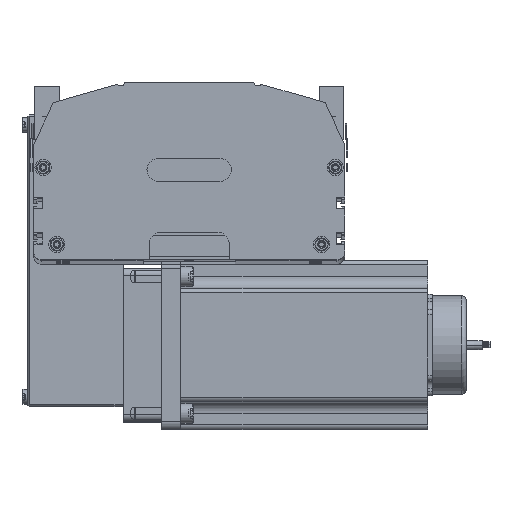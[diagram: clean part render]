
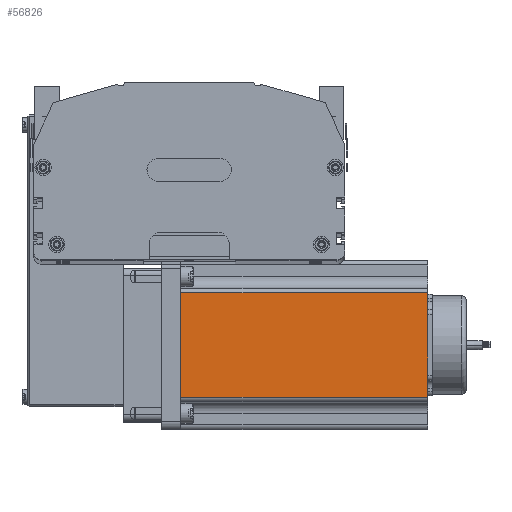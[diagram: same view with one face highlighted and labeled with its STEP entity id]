
A CAD part, top view. The second image highlights one B-rep face of the part: STEP entity #56826.
In plain terms, the highlighted planar face has unit normal (0, 0, 1) as drawn and (0, -1, 0) by its records, which use the part's own axes.
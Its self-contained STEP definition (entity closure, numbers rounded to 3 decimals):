
#10509 = DIRECTION ( 'NONE',  ( 1., 0., 0. ) ) ;
#10510 = VECTOR ( 'NONE', #10509, 1000. ) ;
#10511 = CARTESIAN_POINT ( 'NONE',  ( 0., 0., 0. ) ) ;
#10512 = LINE ( 'NONE', #10511, #10510 ) ;
#10514 = DIRECTION ( 'NONE',  ( 0., 0., 1. ) ) ;
#10515 = VECTOR ( 'NONE', #10514, 1000. ) ;
#10516 = CARTESIAN_POINT ( 'NONE',  ( 88.952, 0., 160.5 ) ) ;
#10517 = LINE ( 'NONE', #10516, #10515 ) ;
#10518 = CARTESIAN_POINT ( 'NONE',  ( 88.952, 0., 0. ) ) ;
#10519 = DIRECTION ( 'NONE',  ( 1., 0., 0. ) ) ;
#10520 = VECTOR ( 'NONE', #10519, 1000. ) ;
#10521 = CARTESIAN_POINT ( 'NONE',  ( 0., 0., 160.5 ) ) ;
#10522 = DIRECTION ( 'NONE',  ( 0., 0., 1. ) ) ;
#10523 = LINE ( 'NONE', #10521, #10520 ) ;
#10524 = PLANE ( 'NONE',  #10546 ) ;
#10525 = FACE_OUTER_BOUND ( 'NONE', #56818, .T. ) ;
#10526 = CARTESIAN_POINT ( 'NONE',  ( 0., 0., 160.5 ) ) ;
#10529 = CARTESIAN_POINT ( 'NONE',  ( 88.952, 0., 160.5 ) ) ;
#10530 = CARTESIAN_POINT ( 'NONE',  ( 21.048, 0., 160.5 ) ) ;
#10538 = DIRECTION ( 'NONE',  ( 0., 1., 0. ) ) ;
#10546 = AXIS2_PLACEMENT_3D ( 'NONE', #10526, #10538, #10522 ) ;
#10575 = CARTESIAN_POINT ( 'NONE',  ( 21.048, 0., 0. ) ) ;
#10655 = DIRECTION ( 'NONE',  ( 0., 0., -1. ) ) ;
#10656 = VECTOR ( 'NONE', #10655, 1000. ) ;
#10657 = CARTESIAN_POINT ( 'NONE',  ( 21.048, 0., 160.5 ) ) ;
#10660 = LINE ( 'NONE', #10657, #10656 ) ;
#56794 = ORIENTED_EDGE ( 'NONE', *, *, #56937, .T. ) ;
#56818 = EDGE_LOOP ( 'NONE', ( #56848, #56835, #56850, #56794 ) ) ;
#56822 = VERTEX_POINT ( 'NONE', #10529 ) ;
#56826 = ADVANCED_FACE ( 'NONE', ( #10525 ), #10524, .F. ) ;
#56827 = EDGE_CURVE ( 'NONE', #56834, #56822, #10523, .T. ) ;
#56828 = EDGE_CURVE ( 'NONE', #56842, #56822, #10517, .T. ) ;
#56831 = EDGE_CURVE ( 'NONE', #56849, #56842, #10512, .T. ) ;
#56834 = VERTEX_POINT ( 'NONE', #10530 ) ;
#56835 = ORIENTED_EDGE ( 'NONE', *, *, #56828, .T. ) ;
#56842 = VERTEX_POINT ( 'NONE', #10518 ) ;
#56848 = ORIENTED_EDGE ( 'NONE', *, *, #56831, .T. ) ;
#56849 = VERTEX_POINT ( 'NONE', #10575 ) ;
#56850 = ORIENTED_EDGE ( 'NONE', *, *, #56827, .F. ) ;
#56937 = EDGE_CURVE ( 'NONE', #56834, #56849, #10660, .T. ) ;
